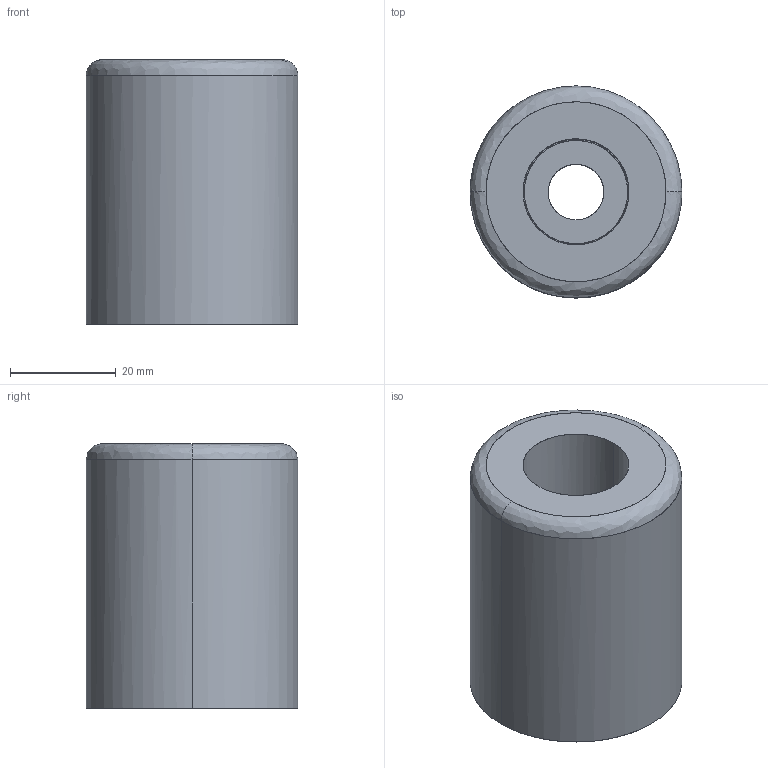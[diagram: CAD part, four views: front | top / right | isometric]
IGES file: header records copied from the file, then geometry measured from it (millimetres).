
Global section: file name: E:\UnigraphicsGraphicData\MISUMI_PRESS-PARTS\IGES\3d_durp40_06989_r00.igs; native system: NX V5.0; preprocessor: UGS NX IGES V5.0; author: MISUMI; date: 20110105.160602; units: millimetre
Bounding box: 40 x 40 x 50 mm (x, y, z)
Surface area: 13087.7 mm2 (no closed solid volume)
Topology: 0 solids, 0 shells, 20 faces, 168 edges, 168 vertices
Faces by surface type: bspline 20
